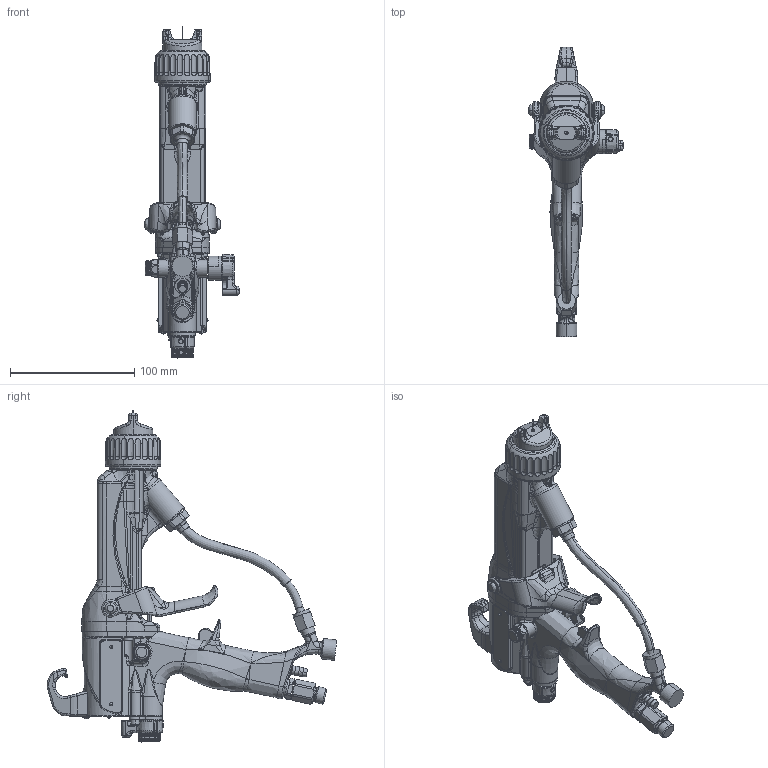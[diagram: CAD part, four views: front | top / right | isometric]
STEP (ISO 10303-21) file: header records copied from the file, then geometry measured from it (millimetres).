
FILE_DESCRIPTION((''),'2;1');
FILE_NAME('L85T50-EN-F_PRT','2020-05-18T18:56:26',('qusrh3'),(''),'CREO PARAMETRIC BY PTC INC, 2019030','CREO PARAMETRIC BY PTC INC, 2019030','');
FILE_SCHEMA(('CONFIG_CONTROL_DESIGN'));
Products named in the file (1): L85T50-EN-F_PRT
Bounding box: 75.86 x 233.22 x 267.21 mm (x, y, z)
Surface area: 95422 mm2 (no closed solid volume)
Topology: 0 solids, 63 shells, 2473 faces, 6647 edges, 4071 vertices
Faces by surface type: bspline 911, cylinder 610, plane 454, cone 245, torus 189, sphere 56, extrusion 8
Entity records: 128053 total; most frequent: CARTESIAN_POINT 74764, ORIENTED_EDGE 12146, DIRECTION 9248, EDGE_CURVE 6638, VERTEX_POINT 4071, AXIS2_PLACEMENT_3D 3826, B_SPLINE_CURVE_WITH_KNOTS 2786, EDGE_LOOP 2473
